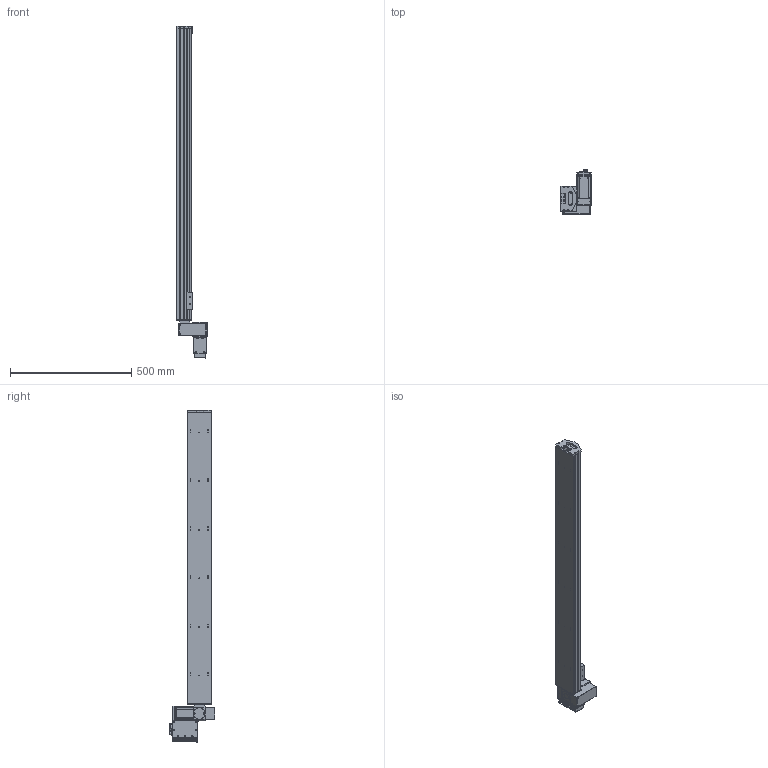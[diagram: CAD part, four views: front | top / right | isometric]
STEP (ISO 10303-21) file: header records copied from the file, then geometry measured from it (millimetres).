
FILE_DESCRIPTION (( 'STEP AP203' ), '1' );
FILE_NAME ('S10 TBN LT S1200.STEP', '2012-06-19T09:48:49', ( 'Conseil Régional Haute-Normandie' ), ( 'Conseil Régional Haute-Normandie' ), 'SwSTEP 2.0', 'SolidWorks 2010', '' );
FILE_SCHEMA (( 'CONFIG_CONTROL_DESIGN' ));
Length unit declared in the file: millimetre
Products named in the file (25): cache t皻e axe_Default; axe 1200; cache t皻e_Default; renvoi LH_Default; Moteur 60BLDC90A_3; BU45 Carte d''axe A11_5; Sub D 9cts 90_X2_00B_X0__3; Radiateur profil_X2_00E9_X0_ 100x25_3; S10 TBN LT S1200; embout; palette tbn; plaque de bout s10_Default; Plaque racord_Default; Assem1_7; T_X2_00F4_X0_le contre le moteur_5; BU41 Carte Alimentation P05_3; Colonnette_3; Couvercle_3; T_X2_00F4_X0_le fond_3; Connecteur rond D10 3cts_5; Connecteur rond D12 4cts_5; Colonnette ronde_3; T_X2_00F4_X0_le Arri_X2_00E8_X0_re_5; T_X2_00F4_X0_le lat_X2_00E9_X0_rale_5; Vis TF 3 torkx_1_1
Assembly tree (48 placements, depth 3):
  S10 TBN LT S1200
    cache t皻e_Default  x2
    embout
    Plaque racord_Default
    plaque de bout s10_Default
    cache t皻e axe_Default
    axe 1200
    Assem1_7
      BU41 Carte Alimentation P05_3
      Vis TF 3 torkx_1_1  x21
      Couvercle_3
      Connecteur rond D10 3cts_5  x2
      Connecteur rond D12 4cts_5
      T_X2_00F4_X0_le contre le moteur_5
      Sub D 9cts 90_X2_00B_X0__3
      Colonnette_3  x2
      Colonnette ronde_3
      T_X2_00F4_X0_le lat_X2_00E9_X0_rale_5  x2
      T_X2_00F4_X0_le fond_3
      Radiateur profil_X2_00E9_X0_ 100x25_3
      T_X2_00F4_X0_le Arri_X2_00E8_X0_re_5
      Moteur 60BLDC90A_3
      BU45 Carte d''axe A11_5
    palette tbn
    renvoi LH_Default
Bounding box: 127 x 186.1 x 1366.5 mm (x, y, z)
Volume: 7059555.3 mm3; surface area: 884032.5 mm2
Topology: 47 solids, 47 shells, 1937 faces, 4943 edges, 3222 vertices
Faces by surface type: cylinder 910, plane 866, cone 146, bspline 12, torus 3
Entity records: 43648 total; most frequent: CARTESIAN_POINT 7922, DIRECTION 7106, ORIENTED_EDGE 6482, EDGE_CURVE 3241, AXIS2_PLACEMENT_3D 2645, VERTEX_POINT 2126, LINE 1816, VECTOR 1816
